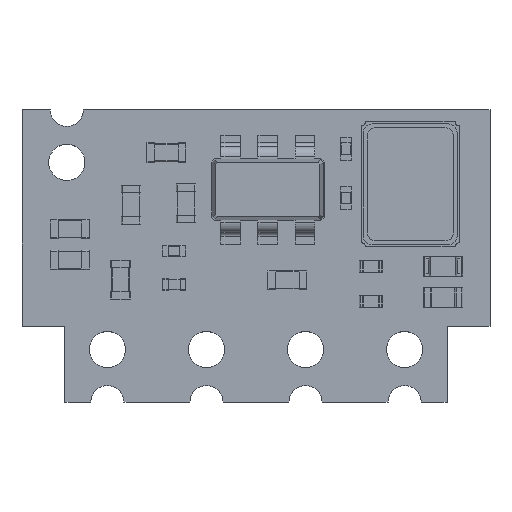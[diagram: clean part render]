
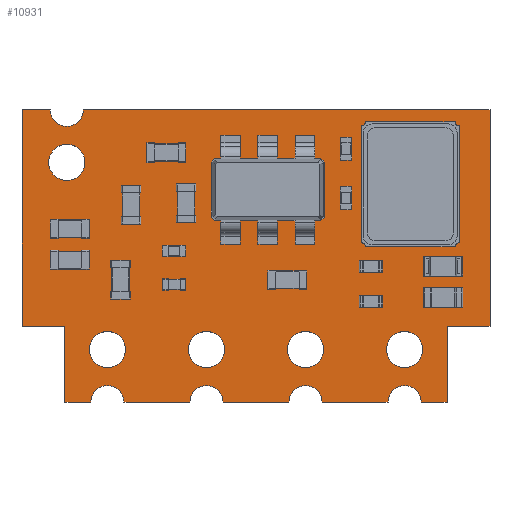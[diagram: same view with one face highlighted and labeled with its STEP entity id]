
A CAD part, top view. The second image highlights one B-rep face of the part: STEP entity #10931.
In plain terms, the highlighted planar face has unit normal (0, 0, 1).
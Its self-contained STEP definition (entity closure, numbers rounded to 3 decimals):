
#10638 = VERTEX_POINT('',#10639);
#10639 = CARTESIAN_POINT('',(6.,-1.8,0.8));
#10645 = EDGE_CURVE('',#10638,#10646,#10648,.T.);
#10646 = VERTEX_POINT('',#10647);
#10647 = CARTESIAN_POINT('',(4.9,-1.8,0.8));
#10648 = LINE('',#10649,#10650);
#10649 = CARTESIAN_POINT('',(6.,-1.8,0.8));
#10650 = VECTOR('',#10651,1.);
#10651 = DIRECTION('',(-1.,0.,0.));
#10678 = VERTEX_POINT('',#10679);
#10679 = CARTESIAN_POINT('',(6.,3.75,0.8));
#10685 = EDGE_CURVE('',#10678,#10638,#10686,.T.);
#10686 = LINE('',#10687,#10688);
#10687 = CARTESIAN_POINT('',(6.,3.75,0.8));
#10688 = VECTOR('',#10689,1.);
#10689 = DIRECTION('',(0.,-1.,0.));
#10707 = EDGE_CURVE('',#10646,#10708,#10710,.T.);
#10708 = VERTEX_POINT('',#10709);
#10709 = CARTESIAN_POINT('',(4.9,-3.75,0.8));
#10710 = LINE('',#10711,#10712);
#10711 = CARTESIAN_POINT('',(4.9,-1.8,0.8));
#10712 = VECTOR('',#10713,1.);
#10713 = DIRECTION('',(0.,-1.,0.));
#10931 = ADVANCED_FACE('',(#10932,#11069,#11080,#11091,#11102,#11113),
  #11124,.F.);
#10932 = FACE_BOUND('',#10933,.F.);
#10933 = EDGE_LOOP('',(#10934,#10935,#10936,#10937,#10945,#10954,#10962,
    #10971,#10979,#10988,#10996,#11005,#11013,#11021,#11029,#11037,
    #11045,#11054,#11063));
#10934 = ORIENTED_EDGE('',*,*,#10685,.T.);
#10935 = ORIENTED_EDGE('',*,*,#10645,.T.);
#10936 = ORIENTED_EDGE('',*,*,#10707,.T.);
#10937 = ORIENTED_EDGE('',*,*,#10938,.T.);
#10938 = EDGE_CURVE('',#10708,#10939,#10941,.T.);
#10939 = VERTEX_POINT('',#10940);
#10940 = CARTESIAN_POINT('',(4.235,-3.75,0.8));
#10941 = LINE('',#10942,#10943);
#10942 = CARTESIAN_POINT('',(4.9,-3.75,0.8));
#10943 = VECTOR('',#10944,1.);
#10944 = DIRECTION('',(-1.,0.,0.));
#10945 = ORIENTED_EDGE('',*,*,#10946,.F.);
#10946 = EDGE_CURVE('',#10947,#10939,#10949,.T.);
#10947 = VERTEX_POINT('',#10948);
#10948 = CARTESIAN_POINT('',(3.385,-3.75,0.8));
#10949 = CIRCLE('',#10950,0.425);
#10950 = AXIS2_PLACEMENT_3D('',#10951,#10952,#10953);
#10951 = CARTESIAN_POINT('',(3.81,-3.75,0.8));
#10952 = DIRECTION('',(-0.,0.,-1.));
#10953 = DIRECTION('',(0.,-1.,-0.));
#10954 = ORIENTED_EDGE('',*,*,#10955,.T.);
#10955 = EDGE_CURVE('',#10947,#10956,#10958,.T.);
#10956 = VERTEX_POINT('',#10957);
#10957 = CARTESIAN_POINT('',(1.695,-3.75,0.8));
#10958 = LINE('',#10959,#10960);
#10959 = CARTESIAN_POINT('',(4.9,-3.75,0.8));
#10960 = VECTOR('',#10961,1.);
#10961 = DIRECTION('',(-1.,0.,0.));
#10962 = ORIENTED_EDGE('',*,*,#10963,.F.);
#10963 = EDGE_CURVE('',#10964,#10956,#10966,.T.);
#10964 = VERTEX_POINT('',#10965);
#10965 = CARTESIAN_POINT('',(0.845,-3.75,0.8));
#10966 = CIRCLE('',#10967,0.425);
#10967 = AXIS2_PLACEMENT_3D('',#10968,#10969,#10970);
#10968 = CARTESIAN_POINT('',(1.27,-3.75,0.8));
#10969 = DIRECTION('',(-0.,0.,-1.));
#10970 = DIRECTION('',(-0.,-1.,0.));
#10971 = ORIENTED_EDGE('',*,*,#10972,.T.);
#10972 = EDGE_CURVE('',#10964,#10973,#10975,.T.);
#10973 = VERTEX_POINT('',#10974);
#10974 = CARTESIAN_POINT('',(-0.845,-3.75,0.8));
#10975 = LINE('',#10976,#10977);
#10976 = CARTESIAN_POINT('',(4.9,-3.75,0.8));
#10977 = VECTOR('',#10978,1.);
#10978 = DIRECTION('',(-1.,0.,0.));
#10979 = ORIENTED_EDGE('',*,*,#10980,.F.);
#10980 = EDGE_CURVE('',#10981,#10973,#10983,.T.);
#10981 = VERTEX_POINT('',#10982);
#10982 = CARTESIAN_POINT('',(-1.695,-3.75,0.8));
#10983 = CIRCLE('',#10984,0.425);
#10984 = AXIS2_PLACEMENT_3D('',#10985,#10986,#10987);
#10985 = CARTESIAN_POINT('',(-1.27,-3.75,0.8));
#10986 = DIRECTION('',(-0.,0.,-1.));
#10987 = DIRECTION('',(0.,-1.,0.));
#10988 = ORIENTED_EDGE('',*,*,#10989,.T.);
#10989 = EDGE_CURVE('',#10981,#10990,#10992,.T.);
#10990 = VERTEX_POINT('',#10991);
#10991 = CARTESIAN_POINT('',(-3.385,-3.75,0.8));
#10992 = LINE('',#10993,#10994);
#10993 = CARTESIAN_POINT('',(4.9,-3.75,0.8));
#10994 = VECTOR('',#10995,1.);
#10995 = DIRECTION('',(-1.,0.,0.));
#10996 = ORIENTED_EDGE('',*,*,#10997,.F.);
#10997 = EDGE_CURVE('',#10998,#10990,#11000,.T.);
#10998 = VERTEX_POINT('',#10999);
#10999 = CARTESIAN_POINT('',(-4.235,-3.75,0.8));
#11000 = CIRCLE('',#11001,0.425);
#11001 = AXIS2_PLACEMENT_3D('',#11002,#11003,#11004);
#11002 = CARTESIAN_POINT('',(-3.81,-3.75,0.8));
#11003 = DIRECTION('',(-0.,0.,-1.));
#11004 = DIRECTION('',(0.,-1.,-0.));
#11005 = ORIENTED_EDGE('',*,*,#11006,.T.);
#11006 = EDGE_CURVE('',#10998,#11007,#11009,.T.);
#11007 = VERTEX_POINT('',#11008);
#11008 = CARTESIAN_POINT('',(-4.9,-3.75,0.8));
#11009 = LINE('',#11010,#11011);
#11010 = CARTESIAN_POINT('',(4.9,-3.75,0.8));
#11011 = VECTOR('',#11012,1.);
#11012 = DIRECTION('',(-1.,0.,0.));
#11013 = ORIENTED_EDGE('',*,*,#11014,.T.);
#11014 = EDGE_CURVE('',#11007,#11015,#11017,.T.);
#11015 = VERTEX_POINT('',#11016);
#11016 = CARTESIAN_POINT('',(-4.9,-1.8,0.8));
#11017 = LINE('',#11018,#11019);
#11018 = CARTESIAN_POINT('',(-4.9,-3.75,0.8));
#11019 = VECTOR('',#11020,1.);
#11020 = DIRECTION('',(0.,1.,0.));
#11021 = ORIENTED_EDGE('',*,*,#11022,.T.);
#11022 = EDGE_CURVE('',#11015,#11023,#11025,.T.);
#11023 = VERTEX_POINT('',#11024);
#11024 = CARTESIAN_POINT('',(-6.,-1.8,0.8));
#11025 = LINE('',#11026,#11027);
#11026 = CARTESIAN_POINT('',(-4.9,-1.8,0.8));
#11027 = VECTOR('',#11028,1.);
#11028 = DIRECTION('',(-1.,0.,0.));
#11029 = ORIENTED_EDGE('',*,*,#11030,.T.);
#11030 = EDGE_CURVE('',#11023,#11031,#11033,.T.);
#11031 = VERTEX_POINT('',#11032);
#11032 = CARTESIAN_POINT('',(-6.,3.75,0.8));
#11033 = LINE('',#11034,#11035);
#11034 = CARTESIAN_POINT('',(-6.,-1.8,0.8));
#11035 = VECTOR('',#11036,1.);
#11036 = DIRECTION('',(0.,1.,0.));
#11037 = ORIENTED_EDGE('',*,*,#11038,.T.);
#11038 = EDGE_CURVE('',#11031,#11039,#11041,.T.);
#11039 = VERTEX_POINT('',#11040);
#11040 = CARTESIAN_POINT('',(-5.275,3.75,0.8));
#11041 = LINE('',#11042,#11043);
#11042 = CARTESIAN_POINT('',(-6.,3.75,0.8));
#11043 = VECTOR('',#11044,1.);
#11044 = DIRECTION('',(1.,0.,0.));
#11045 = ORIENTED_EDGE('',*,*,#11046,.F.);
#11046 = EDGE_CURVE('',#11047,#11039,#11049,.T.);
#11047 = VERTEX_POINT('',#11048);
#11048 = CARTESIAN_POINT('',(-4.85,3.325,0.8));
#11049 = CIRCLE('',#11050,0.425);
#11050 = AXIS2_PLACEMENT_3D('',#11051,#11052,#11053);
#11051 = CARTESIAN_POINT('',(-4.85,3.75,0.8));
#11052 = DIRECTION('',(-0.,0.,-1.));
#11053 = DIRECTION('',(-0.,-1.,0.));
#11054 = ORIENTED_EDGE('',*,*,#11055,.F.);
#11055 = EDGE_CURVE('',#11056,#11047,#11058,.T.);
#11056 = VERTEX_POINT('',#11057);
#11057 = CARTESIAN_POINT('',(-4.425,3.75,0.8));
#11058 = CIRCLE('',#11059,0.425);
#11059 = AXIS2_PLACEMENT_3D('',#11060,#11061,#11062);
#11060 = CARTESIAN_POINT('',(-4.85,3.75,0.8));
#11061 = DIRECTION('',(-0.,0.,-1.));
#11062 = DIRECTION('',(-0.,-1.,0.));
#11063 = ORIENTED_EDGE('',*,*,#11064,.T.);
#11064 = EDGE_CURVE('',#11056,#10678,#11065,.T.);
#11065 = LINE('',#11066,#11067);
#11066 = CARTESIAN_POINT('',(-6.,3.75,0.8));
#11067 = VECTOR('',#11068,1.);
#11068 = DIRECTION('',(1.,0.,0.));
#11069 = FACE_BOUND('',#11070,.F.);
#11070 = EDGE_LOOP('',(#11071));
#11071 = ORIENTED_EDGE('',*,*,#11072,.F.);
#11072 = EDGE_CURVE('',#11073,#11073,#11075,.T.);
#11073 = VERTEX_POINT('',#11074);
#11074 = CARTESIAN_POINT('',(3.81,-2.865,0.8));
#11075 = CIRCLE('',#11076,0.465);
#11076 = AXIS2_PLACEMENT_3D('',#11077,#11078,#11079);
#11077 = CARTESIAN_POINT('',(3.81,-2.4,0.8));
#11078 = DIRECTION('',(-0.,0.,-1.));
#11079 = DIRECTION('',(0.,-1.,-0.));
#11080 = FACE_BOUND('',#11081,.F.);
#11081 = EDGE_LOOP('',(#11082));
#11082 = ORIENTED_EDGE('',*,*,#11083,.F.);
#11083 = EDGE_CURVE('',#11084,#11084,#11086,.T.);
#11084 = VERTEX_POINT('',#11085);
#11085 = CARTESIAN_POINT('',(1.27,-2.865,0.8));
#11086 = CIRCLE('',#11087,0.465);
#11087 = AXIS2_PLACEMENT_3D('',#11088,#11089,#11090);
#11088 = CARTESIAN_POINT('',(1.27,-2.4,0.8));
#11089 = DIRECTION('',(-0.,0.,-1.));
#11090 = DIRECTION('',(-0.,-1.,0.));
#11091 = FACE_BOUND('',#11092,.F.);
#11092 = EDGE_LOOP('',(#11093));
#11093 = ORIENTED_EDGE('',*,*,#11094,.F.);
#11094 = EDGE_CURVE('',#11095,#11095,#11097,.T.);
#11095 = VERTEX_POINT('',#11096);
#11096 = CARTESIAN_POINT('',(-1.27,-2.865,0.8));
#11097 = CIRCLE('',#11098,0.465);
#11098 = AXIS2_PLACEMENT_3D('',#11099,#11100,#11101);
#11099 = CARTESIAN_POINT('',(-1.27,-2.4,0.8));
#11100 = DIRECTION('',(-0.,0.,-1.));
#11101 = DIRECTION('',(0.,-1.,0.));
#11102 = FACE_BOUND('',#11103,.F.);
#11103 = EDGE_LOOP('',(#11104));
#11104 = ORIENTED_EDGE('',*,*,#11105,.F.);
#11105 = EDGE_CURVE('',#11106,#11106,#11108,.T.);
#11106 = VERTEX_POINT('',#11107);
#11107 = CARTESIAN_POINT('',(-3.81,-2.865,0.8));
#11108 = CIRCLE('',#11109,0.465);
#11109 = AXIS2_PLACEMENT_3D('',#11110,#11111,#11112);
#11110 = CARTESIAN_POINT('',(-3.81,-2.4,0.8));
#11111 = DIRECTION('',(-0.,0.,-1.));
#11112 = DIRECTION('',(0.,-1.,-0.));
#11113 = FACE_BOUND('',#11114,.F.);
#11114 = EDGE_LOOP('',(#11115));
#11115 = ORIENTED_EDGE('',*,*,#11116,.F.);
#11116 = EDGE_CURVE('',#11117,#11117,#11119,.T.);
#11117 = VERTEX_POINT('',#11118);
#11118 = CARTESIAN_POINT('',(-4.85,1.935,0.8));
#11119 = CIRCLE('',#11120,0.465);
#11120 = AXIS2_PLACEMENT_3D('',#11121,#11122,#11123);
#11121 = CARTESIAN_POINT('',(-4.85,2.4,0.8));
#11122 = DIRECTION('',(-0.,0.,-1.));
#11123 = DIRECTION('',(-0.,-1.,0.));
#11124 = PLANE('',#11125);
#11125 = AXIS2_PLACEMENT_3D('',#11126,#11127,#11128);
#11126 = CARTESIAN_POINT('',(0.,0.11,0.8));
#11127 = DIRECTION('',(-0.,-0.,-1.));
#11128 = DIRECTION('',(-1.,0.,0.));
